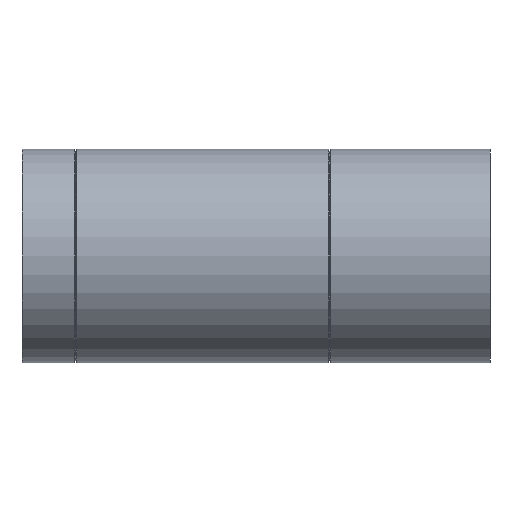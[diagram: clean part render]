
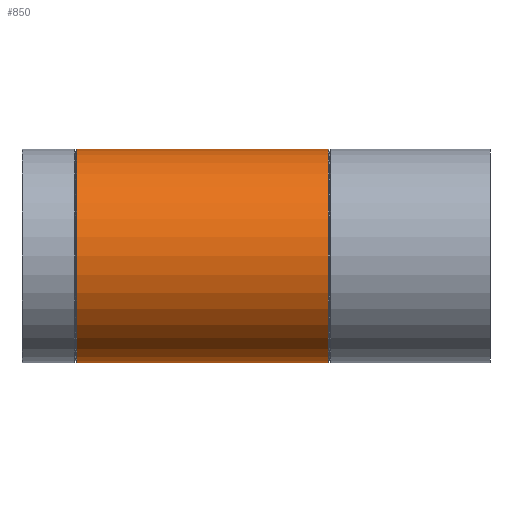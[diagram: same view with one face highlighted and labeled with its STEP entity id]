
A CAD part, left-side view. The second image highlights one B-rep face of the part: STEP entity #850.
In plain terms, the highlighted cylindrical face has radius 80 mm (diameter 160 mm), a full revolution.
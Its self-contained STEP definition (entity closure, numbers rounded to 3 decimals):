
#127=B_SPLINE_CURVE_WITH_KNOTS($,3,(#1335,#1336,#1337,#1338,#1339,#1340,
#1341,#1342,#1343,#1344,#1345,#1346,#1347,#1348,#1349,#1350,#1351,#1352,
#1353,#1354,#1355,#1356,#1357,#1358,#1359,#1360,#1361,#1362,#1363,#1364,
#1365,#1366,#1367,#1368,#1369,#1370,#1371,#1372,#1373,#1374,#1375,#1376,
#1377,#1378,#1379,#1380,#1381,#1382,#1383,#1384,#1385,#1386,#1387,#1388,
#1389,#1390,#1391,#1392,#1393,#1394,#1395,#1396,#1397,#1398,#1399,#1400),
 .UNSPECIFIED.,.T.,.F.,(4,2,2,2,2,2,2,2,2,2,2,2,2,2,2,2,2,2,2,2,2,2,2,2,
2,2,2,2,2,2,2,2,4),(0.,1.09,2.18,3.269,
4.359,5.435,6.511,7.586,8.662,
9.738,10.814,11.889,12.965,14.055,
15.145,16.234,17.324,18.414,19.504,
20.594,21.684,22.759,23.835,24.911,
25.986,27.062,28.138,29.214,30.289,
31.379,32.469,33.559,34.649),
 .UNSPECIFIED.);
#130=CYLINDRICAL_SURFACE($,#920,80.);
#163=FACE_BOUND($,#260,.T.);
#164=FACE_BOUND($,#261,.T.);
#165=FACE_BOUND($,#262,.T.);
#260=EDGE_LOOP($,(#589));
#261=EDGE_LOOP($,(#590));
#262=EDGE_LOOP($,(#591));
#344=CIRCLE($,#912,80.);
#346=CIRCLE($,#915,80.);
#403=VERTEX_POINT($,#1320);
#405=VERTEX_POINT($,#1325);
#408=VERTEX_POINT($,#1334);
#480=EDGE_CURVE($,#403,#403,#344,.T.);
#482=EDGE_CURVE($,#405,#405,#346,.T.);
#485=EDGE_CURVE($,#408,#408,#127,.T.);
#589=ORIENTED_EDGE($,*,*,#485,.T.);
#590=ORIENTED_EDGE($,*,*,#482,.T.);
#591=ORIENTED_EDGE($,*,*,#480,.T.);
#850=ADVANCED_FACE($,(#163,#164,#165),#130,.T.);
#912=AXIS2_PLACEMENT_3D($,#1321,#1039,#1040);
#915=AXIS2_PLACEMENT_3D($,#1326,#1045,#1046);
#920=AXIS2_PLACEMENT_3D($,#1333,#1055,#1056);
#1039=DIRECTION('center_axis',(0.,1.,0.));
#1040=DIRECTION('ref_axis',(1.,0.,0.));
#1045=DIRECTION('center_axis',(0.,-1.,0.));
#1046=DIRECTION('ref_axis',(1.,0.,0.));
#1055=DIRECTION('center_axis',(0.,1.,0.));
#1056=DIRECTION('ref_axis',(1.,0.,0.));
#1320=CARTESIAN_POINT('',(0.,120.924,80.));
#1321=CARTESIAN_POINT('Origin',(0.,120.924,0.));
#1325=CARTESIAN_POINT('',(0.,309.076,80.));
#1326=CARTESIAN_POINT('Origin',(0.,309.076,0.));
#1333=CARTESIAN_POINT('Origin',(0.,0.,0.));
#1334=CARTESIAN_POINT('',(58.095,210.,55.));
#1335=CARTESIAN_POINT('Ctrl Pts',(58.095,210.,55.));
#1336=CARTESIAN_POINT('Ctrl Pts',(58.095,213.633,55.));
#1337=CARTESIAN_POINT('Ctrl Pts',(58.446,217.314,54.635));
#1338=CARTESIAN_POINT('Ctrl Pts',(59.777,224.521,53.176));
#1339=CARTESIAN_POINT('Ctrl Pts',(60.752,228.048,52.082));
#1340=CARTESIAN_POINT('Ctrl Pts',(63.069,234.75,49.251));
#1341=CARTESIAN_POINT('Ctrl Pts',(64.409,237.932,47.512));
#1342=CARTESIAN_POINT('Ctrl Pts',(67.166,243.807,43.528));
#1343=CARTESIAN_POINT('Ctrl Pts',(68.581,246.5,41.281));
#1344=CARTESIAN_POINT('Ctrl Pts',(71.223,251.25,36.531));
#1345=CARTESIAN_POINT('Ctrl Pts',(72.553,253.491,33.855));
#1346=CARTESIAN_POINT('Ctrl Pts',(75.016,257.485,27.979));
#1347=CARTESIAN_POINT('Ctrl Pts',(76.147,259.239,24.778));
#1348=CARTESIAN_POINT('Ctrl Pts',(78.02,262.089,18.031));
#1349=CARTESIAN_POINT('Ctrl Pts',(78.763,263.188,14.478));
#1350=CARTESIAN_POINT('Ctrl Pts',(79.754,264.644,7.255));
#1351=CARTESIAN_POINT('Ctrl Pts',(80.,265.,3.586));
#1352=CARTESIAN_POINT('Ctrl Pts',(80.,265.,-3.586));
#1353=CARTESIAN_POINT('Ctrl Pts',(79.754,264.644,-7.255));
#1354=CARTESIAN_POINT('Ctrl Pts',(78.763,263.188,-14.478));
#1355=CARTESIAN_POINT('Ctrl Pts',(78.02,262.089,-18.031));
#1356=CARTESIAN_POINT('Ctrl Pts',(76.147,259.239,-24.778));
#1357=CARTESIAN_POINT('Ctrl Pts',(75.016,257.485,-27.979));
#1358=CARTESIAN_POINT('Ctrl Pts',(72.553,253.491,-33.855));
#1359=CARTESIAN_POINT('Ctrl Pts',(71.223,251.25,-36.531));
#1360=CARTESIAN_POINT('Ctrl Pts',(68.581,246.5,-41.281));
#1361=CARTESIAN_POINT('Ctrl Pts',(67.166,243.807,-43.528));
#1362=CARTESIAN_POINT('Ctrl Pts',(64.409,237.932,-47.512));
#1363=CARTESIAN_POINT('Ctrl Pts',(63.069,234.75,-49.251));
#1364=CARTESIAN_POINT('Ctrl Pts',(60.752,228.048,-52.082));
#1365=CARTESIAN_POINT('Ctrl Pts',(59.777,224.521,-53.176));
#1366=CARTESIAN_POINT('Ctrl Pts',(58.446,217.314,-54.635));
#1367=CARTESIAN_POINT('Ctrl Pts',(58.095,213.633,-55.));
#1368=CARTESIAN_POINT('Ctrl Pts',(58.095,206.367,-55.));
#1369=CARTESIAN_POINT('Ctrl Pts',(58.446,202.686,-54.635));
#1370=CARTESIAN_POINT('Ctrl Pts',(59.777,195.479,-53.176));
#1371=CARTESIAN_POINT('Ctrl Pts',(60.752,191.952,-52.082));
#1372=CARTESIAN_POINT('Ctrl Pts',(63.069,185.25,-49.251));
#1373=CARTESIAN_POINT('Ctrl Pts',(64.409,182.068,-47.512));
#1374=CARTESIAN_POINT('Ctrl Pts',(67.166,176.193,-43.528));
#1375=CARTESIAN_POINT('Ctrl Pts',(68.581,173.5,-41.281));
#1376=CARTESIAN_POINT('Ctrl Pts',(71.223,168.75,-36.531));
#1377=CARTESIAN_POINT('Ctrl Pts',(72.553,166.509,-33.855));
#1378=CARTESIAN_POINT('Ctrl Pts',(75.016,162.515,-27.979));
#1379=CARTESIAN_POINT('Ctrl Pts',(76.147,160.761,-24.778));
#1380=CARTESIAN_POINT('Ctrl Pts',(78.02,157.911,-18.031));
#1381=CARTESIAN_POINT('Ctrl Pts',(78.763,156.812,-14.478));
#1382=CARTESIAN_POINT('Ctrl Pts',(79.754,155.356,-7.255));
#1383=CARTESIAN_POINT('Ctrl Pts',(80.,155.,-3.586));
#1384=CARTESIAN_POINT('Ctrl Pts',(80.,155.,3.586));
#1385=CARTESIAN_POINT('Ctrl Pts',(79.754,155.356,7.255));
#1386=CARTESIAN_POINT('Ctrl Pts',(78.763,156.812,14.478));
#1387=CARTESIAN_POINT('Ctrl Pts',(78.02,157.911,18.031));
#1388=CARTESIAN_POINT('Ctrl Pts',(76.147,160.761,24.778));
#1389=CARTESIAN_POINT('Ctrl Pts',(75.016,162.515,27.979));
#1390=CARTESIAN_POINT('Ctrl Pts',(72.553,166.509,33.855));
#1391=CARTESIAN_POINT('Ctrl Pts',(71.223,168.75,36.531));
#1392=CARTESIAN_POINT('Ctrl Pts',(68.581,173.5,41.281));
#1393=CARTESIAN_POINT('Ctrl Pts',(67.166,176.193,43.528));
#1394=CARTESIAN_POINT('Ctrl Pts',(64.409,182.068,47.512));
#1395=CARTESIAN_POINT('Ctrl Pts',(63.069,185.25,49.251));
#1396=CARTESIAN_POINT('Ctrl Pts',(60.752,191.952,52.082));
#1397=CARTESIAN_POINT('Ctrl Pts',(59.777,195.479,53.176));
#1398=CARTESIAN_POINT('Ctrl Pts',(58.446,202.686,54.635));
#1399=CARTESIAN_POINT('Ctrl Pts',(58.095,206.367,55.));
#1400=CARTESIAN_POINT('Ctrl Pts',(58.095,210.,55.));
